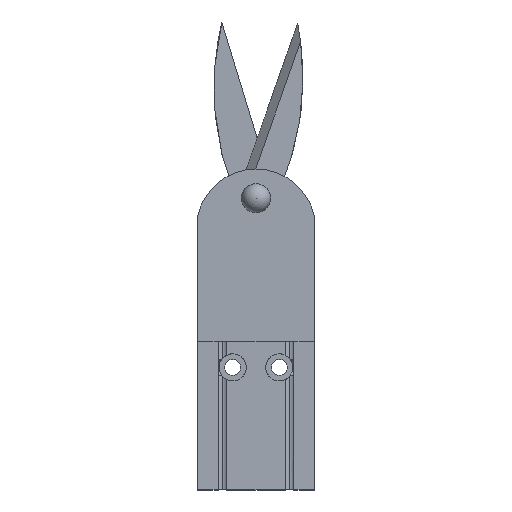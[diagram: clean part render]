
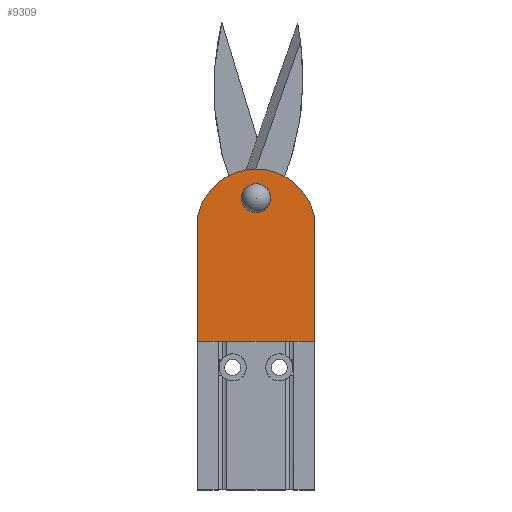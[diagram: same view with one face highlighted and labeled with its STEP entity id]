
A CAD part, top view. The second image highlights one B-rep face of the part: STEP entity #9309.
In plain terms, the highlighted planar face has unit normal (0, 0, 1).
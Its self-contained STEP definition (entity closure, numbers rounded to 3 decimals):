
#267 = ORIENTED_EDGE ( 'NONE', *, *, #6568, .T. ) ;
#275 = EDGE_CURVE ( 'NONE', #6069, #3515, #396, .T. ) ;
#349 = EDGE_LOOP ( 'NONE', ( #7172, #8525, #997, #8197 ) ) ;
#362 = EDGE_CURVE ( 'NONE', #6545, #9061, #3836, .T. ) ;
#396 = LINE ( 'NONE', #5396, #1551 ) ;
#519 = DIRECTION ( 'NONE',  ( 0., 0., -1. ) ) ;
#542 = FACE_OUTER_BOUND ( 'NONE', #349, .T. ) ;
#911 = CIRCLE ( 'NONE', #1375, 20.5 ) ;
#997 = ORIENTED_EDGE ( 'NONE', *, *, #6688, .T. ) ;
#1157 = DIRECTION ( 'NONE',  ( 1., 0., 0. ) ) ;
#1375 = AXIS2_PLACEMENT_3D ( 'NONE', #5127, #4991, #9376 ) ;
#1551 = VECTOR ( 'NONE', #4727, 1000. ) ;
#1856 = DIRECTION ( 'NONE',  ( -1., 0., 0. ) ) ;
#1904 = CARTESIAN_POINT ( 'NONE',  ( 0., 27.5, 21. ) ) ;
#1990 = VECTOR ( 'NONE', #2574, 1000. ) ;
#2171 = AXIS2_PLACEMENT_3D ( 'NONE', #6865, #4637, #6957 ) ;
#2574 = DIRECTION ( 'NONE',  ( 0., -1., 0. ) ) ;
#2593 = VECTOR ( 'NONE', #1157, 1000. ) ;
#2674 = CARTESIAN_POINT ( 'NONE',  ( 20., -21.5, 21. ) ) ;
#3041 = AXIS2_PLACEMENT_3D ( 'NONE', #1904, #519, #1856 ) ;
#3149 = LINE ( 'NONE', #3910, #1990 ) ;
#3262 = CARTESIAN_POINT ( 'NONE',  ( 5., 27.5, 21. ) ) ;
#3451 = DIRECTION ( 'NONE',  ( -1., 0., 0. ) ) ;
#3515 = VERTEX_POINT ( 'NONE', #4539 ) ;
#3554 = PLANE ( 'NONE',  #6720 ) ;
#3836 = CIRCLE ( 'NONE', #2171, 5. ) ;
#3910 = CARTESIAN_POINT ( 'NONE',  ( -20., -21.5, 21. ) ) ;
#4044 = CARTESIAN_POINT ( 'NONE',  ( -5., 27.5, 21. ) ) ;
#4057 = LINE ( 'NONE', #7530, #2593 ) ;
#4361 = DIRECTION ( 'NONE',  ( 0., 0., -1. ) ) ;
#4539 = CARTESIAN_POINT ( 'NONE',  ( 20., 21.5, 21. ) ) ;
#4637 = DIRECTION ( 'NONE',  ( 0., 0., -1. ) ) ;
#4727 = DIRECTION ( 'NONE',  ( 0., 1., 0. ) ) ;
#4991 = DIRECTION ( 'NONE',  ( 0., 0., 1. ) ) ;
#5127 = CARTESIAN_POINT ( 'NONE',  ( 0., 17., 21. ) ) ;
#5396 = CARTESIAN_POINT ( 'NONE',  ( 20., 21.5, 21. ) ) ;
#6069 = VERTEX_POINT ( 'NONE', #2674 ) ;
#6454 = CARTESIAN_POINT ( 'NONE',  ( 0., 17., 21. ) ) ;
#6545 = VERTEX_POINT ( 'NONE', #4044 ) ;
#6568 = EDGE_CURVE ( 'NONE', #9061, #6545, #8818, .T. ) ;
#6612 = CARTESIAN_POINT ( 'NONE',  ( -20., 21.5, 21. ) ) ;
#6688 = EDGE_CURVE ( 'NONE', #3515, #8310, #911, .T. ) ;
#6720 = AXIS2_PLACEMENT_3D ( 'NONE', #6454, #4361, #3451 ) ;
#6865 = CARTESIAN_POINT ( 'NONE',  ( 0., 27.5, 21. ) ) ;
#6957 = DIRECTION ( 'NONE',  ( -1., 0., 0. ) ) ;
#7078 = EDGE_LOOP ( 'NONE', ( #9179, #267 ) ) ;
#7172 = ORIENTED_EDGE ( 'NONE', *, *, #7219, .T. ) ;
#7206 = EDGE_CURVE ( 'NONE', #8310, #8966, #3149, .T. ) ;
#7219 = EDGE_CURVE ( 'NONE', #8966, #6069, #4057, .T. ) ;
#7530 = CARTESIAN_POINT ( 'NONE',  ( 20., -21.5, 21. ) ) ;
#8197 = ORIENTED_EDGE ( 'NONE', *, *, #7206, .T. ) ;
#8310 = VERTEX_POINT ( 'NONE', #6612 ) ;
#8525 = ORIENTED_EDGE ( 'NONE', *, *, #275, .T. ) ;
#8818 = CIRCLE ( 'NONE', #3041, 5. ) ;
#8966 = VERTEX_POINT ( 'NONE', #9405 ) ;
#9061 = VERTEX_POINT ( 'NONE', #3262 ) ;
#9179 = ORIENTED_EDGE ( 'NONE', *, *, #362, .T. ) ;
#9216 = FACE_BOUND ( 'NONE', #7078, .T. ) ;
#9309 = ADVANCED_FACE ( 'NONE', ( #9216, #542 ), #3554, .F. ) ;
#9376 = DIRECTION ( 'NONE',  ( -1., 0., 0. ) ) ;
#9405 = CARTESIAN_POINT ( 'NONE',  ( -20., -21.5, 21. ) ) ;
